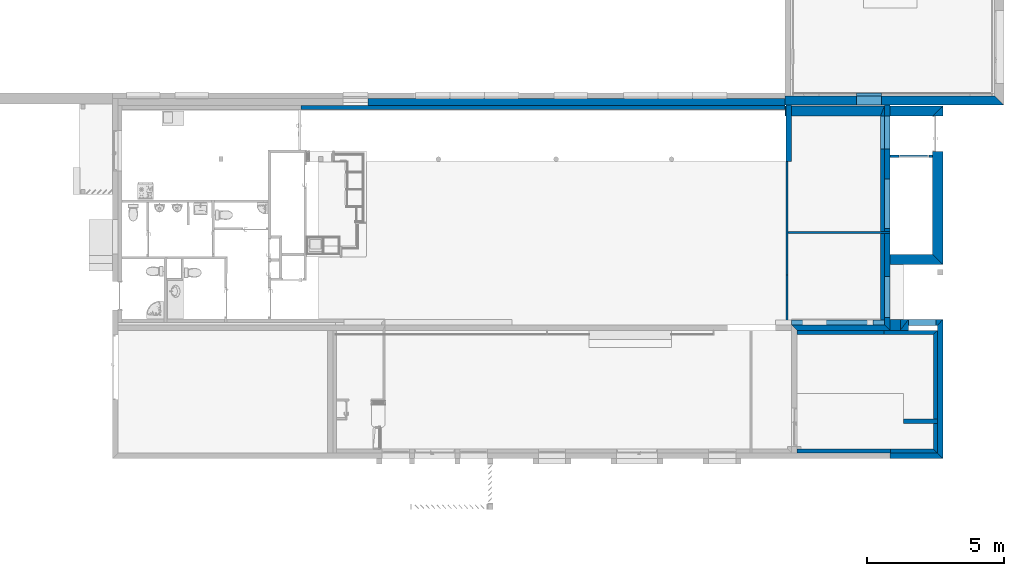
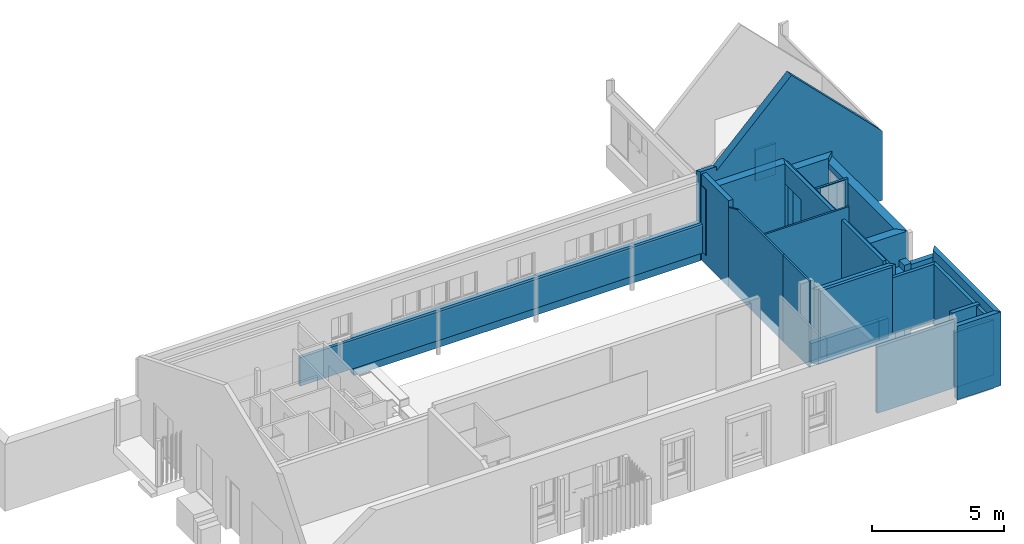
# One storey, part 11 of 34: 30 walls, 8 openings.
"""IFC2X3 building model written with IfcOpenShell, lengths in metres."""

from ifc_helpers import new_model, entity, si_unit, converted_unit, derived_unit, money_unit, direction, frame, origin_with_axes, origin_2d_with_axis, place, context, subcontext, project, spatial, polyline, rectangle, outline, extrude, clip, halfspace, bounded_halfspace, material, layer, layer_set, layer_usage, type_object, element, save


model = new_model("IFC2X3")

# Units and contexts
model_context = context("Model", 3, precision=1e-05, world=origin_with_axes(), true_north=direction((0.0, 1.0)))
body_context = subcontext(model_context, "Body", "Model", "MODEL_VIEW")
ifc_project = project(units=[si_unit("LENGTHUNIT", "METRE"), si_unit("AREAUNIT", "SQUARE_METRE"), si_unit("VOLUMEUNIT", "CUBIC_METRE"), converted_unit("PLANEANGLEUNIT", "DEGREE", entity("IfcPlaneAngleMeasure", 0.0174532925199), si_unit("PLANEANGLEUNIT", "RADIAN"), dimensions=[0, 0, 0, 0, 0, 0, 0]), money_unit("CHF"), converted_unit("TIMEUNIT", "Year", entity("IfcTimeMeasure", 31556926.0), si_unit("TIMEUNIT", "SECOND"), dimensions=[0, 0, 1, 0, 0, 0, 0]), si_unit("MASSUNIT", "GRAM", prefix="KILO"), si_unit("THERMODYNAMICTEMPERATUREUNIT", "DEGREE_CELSIUS"), si_unit("LUMINOUSINTENSITYUNIT", "LUMEN"), si_unit("ENERGYUNIT", "JOULE", prefix="MEGA"), derived_unit("THERMALCONDUCTANCEUNIT", [(si_unit("POWERUNIT", "WATT"), 1), (si_unit("LENGTHUNIT", "METRE"), -1), (si_unit("THERMODYNAMICTEMPERATUREUNIT", "KELVIN"), -1)]), derived_unit("SPECIFICHEATCAPACITYUNIT", [(si_unit("ENERGYUNIT", "JOULE"), 1), (si_unit("MASSUNIT", "GRAM", prefix="KILO"), -1), (si_unit("THERMODYNAMICTEMPERATUREUNIT", "KELVIN"), -1)]), derived_unit("MASSDENSITYUNIT", [(si_unit("MASSUNIT", "GRAM", prefix="KILO"), 1), (si_unit("VOLUMEUNIT", "CUBIC_METRE"), -1)])], contexts=[model_context])

# Site, building, storey
site_placement = place(None, origin_with_axes())
site = spatial("IfcSite", under=ifc_project, at=site_placement, Name="Site", CompositionType="ELEMENT")
building_placement = place(site_placement, origin_with_axes())
building = spatial("IfcBuilding", under=site, at=building_placement, Name="Bâtiment", CompositionType="ELEMENT")
storey_placement = place(building_placement, origin_with_axes())
storey = spatial("IfcBuildingStorey", under=building, at=storey_placement, Name="RDC", CompositionType="ELEMENT", Elevation=-5.32907e-15)

# Wall, openings
ifc_material_1 = material(Name="Diagonales 1167258944")
ifc_layer_1 = layer(ifc_material_1, 0.2, ventilated="UNKNOWN")
ifc_layer_set_1 = layer_set([ifc_layer_1], Name="Diagonales 1167258944 0.2")
ifc_layer_usage_1 = layer_usage(ifc_layer_set_1, "AXIS2", "NEGATIVE", 0.0)
wall_type_1 = type_object("IfcWallType", Name="Diagonales 1167258944 200", PredefinedType="NOTDEFINED")
wall_1_placement = place(storey_placement, frame((1695.75729001, 190.26004191, 0.0), z_axis=(0.0, 0.0, 1.0), x_axis=(0.0, -1.0, 0.0)))
wall_1 = element("IfcWallStandardCase", 1, at=wall_1_placement, inside=storey, type_object=wall_type_1, material=ifc_layer_usage_1, Name="Mur-004", context=body_context, shape_type="Clipping", body=[
    clip(clip(extrude(outline(polyline([(0.0, -0.2), (8.01, -0.2), (8.21, 0.0), (0.0, 0.0), (0.0, -0.2)])), origin_with_axes(), (0.0, 0.0, 1.0), 3.27823220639), bounded_halfspace(frame((-1.37691539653, 0.0, 2.63513090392), z_axis=(0.463111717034, 0.0, -0.886299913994), x_axis=(0.0, 1.0, 0.0)), True, origin_with_axes(), polyline([(0.303252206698, -0.21), (6.22, -0.21), (6.22, 0.01), (0.303252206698, 0.01), (0.303252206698, -0.21)]))), bounded_halfspace(frame((3.52130527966, 0.0, 7.82430005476), z_axis=(-0.410400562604, 0.0, -0.911905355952), x_axis=(0.0, 1.0, 0.0)), True, origin_with_axes(), polyline([(6.22, -0.21), (13.38001, -0.21), (13.38001, 0.01), (6.22, 0.01), (6.22, -0.21)]))),
])
opening_1_placement = place(wall_1_placement, frame((3.59, 0.0, 0.47), z_axis=(0.0, 0.0, 1.0), x_axis=(1.0, 0.0, 0.0)))
element("IfcOpeningElement", 2, at=opening_1_placement, cuts=wall_1, Name="Por-007", context=body_context, shape_type="SweptSolid", body=[
    extrude(rectangle(XDim=1.8, YDim=2.36, at=origin_2d_with_axis()), frame((0.0, 0.0, 1.18), z_axis=(0.0, -1.0, 0.0), x_axis=(1.0, 0.0, 0.0)), (0.0, 0.0, -1.0), 0.2),
    extrude(rectangle(XDim=1.8, YDim=2.36, at=origin_2d_with_axis()), frame((0.0, 0.0, 1.18), z_axis=(0.0, 1.0, 0.0), x_axis=(1.0, 0.0, 0.0)), (0.0, 0.0, -1.0), 0.2),
])
opening_2_placement = place(wall_1_placement, frame((6.99402079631, 0.0, 0.47), z_axis=(0.0, 0.0, 1.0), x_axis=(1.0, 0.0, 0.0)))
element("IfcOpeningElement", 3, at=opening_2_placement, cuts=wall_1, Name="Por-004", context=body_context, shape_type="SweptSolid", body=[
    extrude(rectangle(XDim=1.5, YDim=2.36, at=origin_2d_with_axis()), frame((0.0, -0.2, 1.18), z_axis=(0.0, -1.0, 0.0), x_axis=(-1.0, 0.0, 0.0)), (0.0, 0.0, -1.0), 0.6),
])
opening_3_placement = place(wall_1_placement, frame((0.993, 0.0, 0.47), z_axis=(0.0, 0.0, 1.0), x_axis=(1.0, 0.0, 0.0)))
element("IfcOpeningElement", 4, at=opening_3_placement, cuts=wall_1, Name="Por-006", context=body_context, shape_type="SweptSolid", body=[
    extrude(rectangle(XDim=1.2, YDim=2.1, at=origin_2d_with_axis()), frame((0.0, 0.0, 1.05), z_axis=(0.0, -1.0, 0.0), x_axis=(1.0, 0.0, 0.0)), (0.0, 0.0, -1.0), 0.2),
    extrude(rectangle(XDim=1.2, YDim=2.1, at=origin_2d_with_axis()), frame((0.0, 0.0, 1.05), z_axis=(0.0, 1.0, 0.0), x_axis=(1.0, 0.0, 0.0)), (0.0, 0.0, -1.0), 0.2),
])

# Walls
ifc_layer_usage_2 = layer_usage(ifc_layer_set_1, "AXIS2", "POSITIVE", 0.0)
wall_2_placement = place(storey_placement, frame((1691.97729011, 190.26004191, 0.0), z_axis=(0.0, 0.0, 1.0), x_axis=(-4.77416285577e-08, -1.0, 0.0)))
element("IfcWallStandardCase", 5, at=wall_2_placement, inside=storey, type_object=wall_type_1, material=ifc_layer_usage_2, Name="Mur-002", context=body_context, shape_type="SweptSolid", body=[
    extrude(outline(polyline([(0.0, 0.0), (2.06, 0.0), (2.06, 0.2), (0.0, 0.2), (0.0, 0.0)])), origin_with_axes(), (0.0, 0.0, 1.0), 4.0),
])
ifc_layer_usage_3 = layer_usage(ifc_layer_set_1, "AXIS2", "POSITIVE", 0.0)
wall_3_placement = place(storey_placement, frame((1697.68729001, 177.38004191, 0.0), z_axis=(0.0, 0.0, 1.0), x_axis=(0.0, 1.0, 0.0)))
element("IfcWallStandardCase", 6, at=wall_3_placement, inside=storey, type_object=wall_type_1, material=ifc_layer_usage_3, Name="Mur-007", context=body_context, shape_type="SweptSolid", body=[
    extrude(outline(polyline([(0.0, 0.0), (5.07, 0.0), (4.84, 0.2), (0.2, 0.2), (0.0, 0.0)])), origin_with_axes(), (0.0, 0.0, 1.0), 3.42),
])
ifc_layer_usage_4 = layer_usage(ifc_layer_set_1, "AXIS2", "NEGATIVE", 0.0)
wall_4_placement = place(storey_placement, frame((1695.75729001, 182.05004191, 0.0), z_axis=(0.0, 0.0, 1.0), x_axis=(-1.0, 0.0, 0.0)))
element("IfcWallStandardCase", 7, at=wall_4_placement, inside=storey, type_object=wall_type_1, material=ifc_layer_usage_4, Name="Mur-005", context=body_context, shape_type="SweptSolid", body=[
    extrude(outline(polyline([(0.2, -0.2), (3.59, -0.2), (3.39, 0.0), (0.0, 0.0), (0.2, -0.2)])), origin_with_axes(), (0.0, 0.0, 1.0), 3.47135332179),
])
ifc_layer_usage_5 = layer_usage(ifc_layer_set_1, "AXIS2", "POSITIVE", 0.0)
wall_5_placement = place(storey_placement, frame((1695.75729001, 177.38004191, 0.0), z_axis=(0.0, 0.0, 1.0), x_axis=(1.0, 0.0, 0.0)))
element("IfcWallStandardCase", 8, at=wall_5_placement, inside=storey, type_object=wall_type_1, material=ifc_layer_usage_5, Name="Mur-006", context=body_context, shape_type="Clipping", body=[
    clip(clip(extrude(outline(polyline([(0.0, 0.0), (1.93, 0.0), (1.73, 0.2), (0.0, 0.2), (0.0, 0.0)])), origin_with_axes(), (0.0, 0.0, 1.0), 3.42), halfspace(frame((0.0, -1.35194463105, 3.00400550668), z_axis=(0.0, 0.410400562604, -0.911905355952), x_axis=(0.0, 0.911905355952, 0.410400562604)), True)), bounded_halfspace(frame((0.0, -1.35194463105, 3.00400550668), z_axis=(0.0, 0.410400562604, -0.911905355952), x_axis=(0.0, 0.911905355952, 0.410400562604)), True, origin_with_axes(), polyline([(-28.5900100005, -0.01), (0.249999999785, -0.01), (0.249999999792, 0.21), (-28.5900100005, 0.21), (-28.5900100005, -0.01)]))),
])

# Wall, opening
ifc_layer_2 = layer(ifc_material_1, 0.34, ventilated="UNKNOWN")
ifc_layer_set_2 = layer_set([ifc_layer_2], Name="Diagonales 1167258944 0.34")
ifc_layer_usage_6 = layer_usage(ifc_layer_set_2, "AXIS2", "POSITIVE", 0.0)
wall_type_2 = type_object("IfcWallType", Name="Diagonales 1167258944 340", PredefinedType="NOTDEFINED")
wall_6_placement = place(storey_placement, frame((1691.93729001, 190.26004191, 0.0), z_axis=(0.0, 0.0, 1.0), x_axis=(1.0, 0.0, 0.0)))
wall_6 = element("IfcWallStandardCase", 9, at=wall_6_placement, inside=storey, type_object=wall_type_2, material=ifc_layer_usage_6, Name="Mur-004", context=body_context, shape_type="Clipping", body=[
    clip(clip(clip(extrude(outline(polyline([(0.0, 0.0), (7.98, 0.0), (7.64, 0.34), (0.0, 0.34), (0.0, 0.0)])), origin_with_axes(), (0.0, 0.0, 1.0), 7.30016977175), bounded_halfspace(frame((0.0, 1.41507089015, 3.53767722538), z_axis=(0.0, -0.371390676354, -0.928476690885), x_axis=(0.0, 0.928476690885, -0.371390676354)), True, origin_with_axes(), polyline([(-24.913515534, 0.34), (-24.7658335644, -0.01), (0.840391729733, -0.01), (0.688490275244, 0.35), (-24.913515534, 0.35), (-24.913515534, 0.34)]))), bounded_halfspace(frame((-1.60000001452, 0.0, 1.60000001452), z_axis=(0.707106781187, 0.0, -0.707106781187), x_axis=(0.0, 1.0, 0.0)), True, origin_with_axes(), polyline([(0.692207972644, -0.01), (3.98999993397, -0.01), (3.98999993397, 0.35), (0.692207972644, 0.35), (0.692207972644, -0.01)]))), bounded_halfspace(frame((5.5899999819, 0.0, 5.5899999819), z_axis=(-0.707106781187, 0.0, -0.707106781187), x_axis=(0.0, 1.0, 0.0)), True, origin_with_axes(), polyline([(3.98999999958, -0.01), (8.18000999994, -0.01), (8.18000999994, 0.35), (3.98999999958, 0.35), (3.98999999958, -0.01)]))),
])
opening_4_placement = place(wall_6_placement, frame((3.055, 0.0, 0.47), z_axis=(0.0, 0.0, 1.0), x_axis=(1.0, 0.0, 0.0)))
element("IfcOpeningElement", 10, at=opening_4_placement, cuts=wall_6, Name="Por-004", context=body_context, shape_type="SweptSolid", body=[
    extrude(rectangle(XDim=0.91, YDim=2.08, at=origin_2d_with_axis()), frame((0.0, 0.34, 1.04), z_axis=(0.0, -1.0, 0.0), x_axis=(1.0, 0.0, 0.0)), (0.0, 0.0, -1.0), 0.34),
    extrude(rectangle(XDim=0.91, YDim=2.08, at=origin_2d_with_axis()), frame((0.0, 0.34, 1.04), z_axis=(0.0, 1.0, 0.0), x_axis=(1.0, 0.0, 0.0)), (0.0, 0.0, -1.0), 0.34),
])

# Wall
ifc_layer_3 = layer(ifc_material_1, 0.17, ventilated="UNKNOWN")
ifc_layer_set_3 = layer_set([ifc_layer_3], Name="Diagonales 1167258944 0.17")
ifc_layer_usage_7 = layer_usage(ifc_layer_set_3, "AXIS2", "NEGATIVE", 0.0)
wall_type_3 = type_object("IfcWallType", Name="Diagonales 1167258944 170", PredefinedType="NOTDEFINED")
wall_7_placement = place(storey_placement, frame((1697.48729001, 178.65004191, 0.0), z_axis=(0.0, 0.0, 1.0), x_axis=(-1.0, 0.0, 0.0)))
element("IfcWallStandardCase", 11, at=wall_7_placement, inside=storey, type_object=wall_type_3, material=ifc_layer_usage_7, Name="Mur-005", context=body_context, shape_type="SweptSolid", body=[
    extrude(outline(polyline([(0.0, -0.17), (1.22999998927, -0.17), (1.22999998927, 0.0), (0.0, 0.0), (0.0, -0.17)])), origin_with_axes(), (0.0, 0.0, 1.0), 3.07823220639),
])

# Wall, opening
ifc_layer_4 = layer(ifc_material_1, 0.23, ventilated="UNKNOWN")
ifc_layer_set_4 = layer_set([ifc_layer_4], Name="Diagonales 1167258944 0.23")
ifc_layer_usage_8 = layer_usage(ifc_layer_set_4, "AXIS2", "NEGATIVE", 0.0)
wall_type_4 = type_object("IfcWallType", Name="Diagonales 1167258944 230", PredefinedType="NOTDEFINED")
wall_8_placement = place(storey_placement, frame((1696.43729001, 182.45004191, 0.0), z_axis=(0.0, 0.0, 1.0), x_axis=(1.0, 0.0, 0.0)))
wall_8 = element("IfcWallStandardCase", 12, at=wall_8_placement, inside=storey, type_object=wall_type_4, material=ifc_layer_usage_8, Name="Mur-010", context=body_context, shape_type="SweptSolid", body=[
    extrude(outline(polyline([(0.0, -0.23), (1.05, -0.23), (1.25, 0.0), (0.0, 0.0), (0.0, -0.23)])), origin_with_axes(), (0.0, 0.0, 1.0), 3.07823220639),
])
opening_5_placement = place(wall_8_placement, frame((0.498139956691, 0.0, 0.47), z_axis=(0.0, 0.0, 1.0), x_axis=(1.0, 0.0, 0.0)))
element("IfcOpeningElement", 13, at=opening_5_placement, cuts=wall_8, Name="Por-004", context=body_context, shape_type="SweptSolid", body=[
    extrude(rectangle(XDim=0.996279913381, YDim=2.072, at=origin_2d_with_axis()), frame((0.0, -0.23, 1.036), z_axis=(0.0, 1.0, 0.0), x_axis=(1.0, 0.0, 0.0)), (0.0, 0.0, -1.0), 0.23),
    extrude(rectangle(XDim=0.996279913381, YDim=2.072, at=origin_2d_with_axis()), frame((0.0, -0.23, 1.036), z_axis=(0.0, -1.0, 0.0), x_axis=(1.0, 0.0, 0.0)), (0.0, 0.0, -1.0), 0.23),
])

# Walls
ifc_layer_5 = layer(ifc_material_1, 0.4, ventilated="UNKNOWN")
ifc_layer_set_5 = layer_set([ifc_layer_5], Name="Diagonales 1167258944 0.4")
ifc_layer_usage_9 = layer_usage(ifc_layer_set_5, "AXIS2", "NEGATIVE", 0.0)
wall_type_5 = type_object("IfcWallType", Name="Diagonales 1167258944 400", PredefinedType="NOTDEFINED")
wall_9_placement = place(storey_placement, frame((1695.75729001, 182.45004191, 0.0), z_axis=(0.0, 0.0, 1.0), x_axis=(1.0, 0.0, 0.0)))
element("IfcWallStandardCase", 14, at=wall_9_placement, inside=storey, type_object=wall_type_5, material=ifc_layer_usage_9, Name="Mur-010", context=body_context, shape_type="SweptSolid", body=[
    extrude(outline(polyline([(0.0, -0.4), (0.38, -0.4), (0.68, 0.0), (0.0, 0.0), (0.0, -0.4)])), origin_with_axes(), (0.0, 0.0, 1.0), 2.98803488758),
])
ifc_layer_6 = layer(ifc_material_1, 0.3, ventilated="UNKNOWN")
ifc_layer_set_6 = layer_set([ifc_layer_6], Name="Diagonales 1167258944 0.3")
ifc_layer_usage_10 = layer_usage(ifc_layer_set_6, "AXIS2", "POSITIVE", 0.0)
wall_type_6 = type_object("IfcWallType", Name="Diagonales 1167258944 300", PredefinedType="NOTDEFINED")
wall_10_placement = place(storey_placement, frame((1696.13729001, 182.45004191, 0.0), z_axis=(0.0, 0.0, 1.0), x_axis=(0.0, -1.0, 0.0)))
element("IfcWallStandardCase", 15, at=wall_10_placement, inside=storey, type_object=wall_type_6, material=ifc_layer_usage_10, Name="Mur-008", context=body_context, shape_type="SweptSolid", body=[
    extrude(outline(polyline([(0.0, 0.3), (0.4, 0.0), (0.4, 0.3), (0.0, 0.3)])), origin_with_axes(), (0.0, 0.0, 1.0), 2.98803488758),
])
ifc_layer_usage_11 = layer_usage(ifc_layer_set_6, "AXIS2", "POSITIVE", 0.0)
wall_11_placement = place(storey_placement, frame((1696.13729001, 182.45004191, 0.0), z_axis=(0.0, 0.0, 1.0), x_axis=(0.0, -1.0, 0.0)))
element("IfcWallStandardCase", 16, at=wall_11_placement, inside=storey, type_object=wall_type_6, material=ifc_layer_usage_11, Name="Mur-008", context=body_context, shape_type="SweptSolid", body=[
    extrude(outline(polyline([(0.0, 0.0), (0.4, 0.0), (0.4, 0.3), (0.0, 0.3), (0.0, 0.0)])), origin_with_axes(), (0.0, 0.0, 1.0), 3.27823220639),
])
ifc_layer_7 = layer(ifc_material_1, 0.18, ventilated="UNKNOWN")
ifc_layer_set_7 = layer_set([ifc_layer_7], Name="Diagonales 1167258944 0.18")
ifc_layer_usage_12 = layer_usage(ifc_layer_set_7, "AXIS2", "POSITIVE", 0.0)
wall_type_7 = type_object("IfcWallType", Name="Diagonales 1167258944 180", PredefinedType="NOTDEFINED")
wall_12_placement = place(storey_placement, frame((1692.16729001, 182.25004191, 0.0), z_axis=(0.0, 0.0, 1.0), x_axis=(1.0, 0.0, 0.0)))
element("IfcWallStandardCase", 17, at=wall_12_placement, inside=storey, type_object=wall_type_7, material=ifc_layer_usage_12, Name="Mur-002", context=body_context, shape_type="SweptSolid", body=[
    extrude(outline(polyline([(0.0, 0.0), (3.39, 0.0), (3.39, 0.18), (0.0, 0.18), (0.0, 0.0)])), origin_with_axes(), (0.0, 0.0, 1.0), 0.92),
])
ifc_layer_usage_13 = layer_usage(ifc_layer_set_7, "AXIS2", "POSITIVE", 0.0)
wall_13_placement = place(storey_placement, frame((1692.86688861, 182.25004191, 0.0), z_axis=(0.0, 0.0, 1.0), x_axis=(1.0, 0.0, 0.0)))
element("IfcWallStandardCase", 18, at=wall_13_placement, inside=storey, type_object=wall_type_7, material=ifc_layer_usage_13, Name="Mur-002", context=body_context, shape_type="SweptSolid", body=[
    extrude(outline(polyline([(0.0, 0.0), (2.26680297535, 0.0), (2.26680297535, 0.18), (0.0, 0.18), (0.0, 0.0)])), origin_with_axes(), (0.0, 0.0, 1.0), 0.92),
])
ifc_material_2 = material(Name="Isolation laine de pierre 378182646")
ifc_layer_8 = layer(ifc_material_2, 0.12, ventilated="UNKNOWN")
ifc_material_3 = material(Name="Plâtre lissé 291446788")
ifc_layer_9 = layer(ifc_material_3, 0.02, ventilated="UNKNOWN")
ifc_layer_set_8 = layer_set([ifc_layer_8, ifc_layer_9], Name="DOUBLAGE ISO + BA13 14 CM")
ifc_layer_usage_14 = layer_usage(ifc_layer_set_8, "AXIS2", "POSITIVE", 0.0)
wall_type_8 = type_object("IfcWallType", Name="DOUBLAGE ISO + BA13 14 CM 140", PredefinedType="NOTDEFINED")
wall_14_placement = place(storey_placement, frame((1697.48729001, 177.58004191, 0.0), z_axis=(0.0, 0.0, 1.0), x_axis=(0.0, 1.0, 0.0)))
element("IfcWallStandardCase", 19, at=wall_14_placement, inside=storey, type_object=wall_type_8, material=ifc_layer_usage_14, Name="Mur-006", context=body_context, shape_type="SweptSolid", body=[
    extrude(outline(polyline([(0.0, 0.0), (4.46, 0.0), (4.32, 0.14), (0.14, 0.14), (0.0, 0.0)])), origin_with_axes(), (0.0, 0.0, 1.0), 3.0),
])

# Wall, opening
ifc_layer_usage_15 = layer_usage(ifc_layer_set_8, "AXIS2", "NEGATIVE", 0.0)
wall_15_placement = place(storey_placement, frame((1695.55729001, 190.22004191, 0.439999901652), z_axis=(0.0, 0.0, 1.0), x_axis=(0.0, -1.0, 0.0)))
wall_15 = element("IfcWallStandardCase", 20, at=wall_15_placement, inside=storey, type_object=wall_type_8, material=ifc_layer_usage_15, Name="Mur-003", context=body_context, shape_type="SweptSolid", body=[
    extrude(outline(polyline([(0.353, -0.14), (7.79, -0.14), (7.79, 0.0), (0.0, 0.0), (0.353, -0.14)])), origin_with_axes(), (0.0, 0.0, 1.0), 3.06000009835),
])
opening_6_placement = place(wall_15_placement, frame((0.953, 0.0, 0.0300000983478), z_axis=(0.0, 0.0, 1.0), x_axis=(1.0, 0.0, 0.0)))
element("IfcOpeningElement", 21, at=opening_6_placement, cuts=wall_15, Name="Por-006", context=body_context, shape_type="SweptSolid", body=[
    extrude(rectangle(XDim=1.2, YDim=2.1, at=origin_2d_with_axis()), frame((0.0, 0.0, 1.05), z_axis=(0.0, -1.0, 0.0), x_axis=(1.0, 0.0, 0.0)), (0.0, 0.0, -1.0), 0.14),
    extrude(rectangle(XDim=1.2, YDim=2.1, at=origin_2d_with_axis()), frame((0.0, 0.0, 1.05), z_axis=(0.0, 1.0, 0.0), x_axis=(1.0, 0.0, 0.0)), (0.0, 0.0, -1.0), 0.14),
])

# Walls
ifc_layer_usage_16 = layer_usage(ifc_layer_set_8, "AXIS2", "POSITIVE", 0.0)
wall_16_placement = place(storey_placement, frame((1692.16729001, 177.58004191, 0.44), z_axis=(0.0, 0.0, 1.0), x_axis=(1.0, 0.0, 0.0)))
element("IfcWallStandardCase", 22, at=wall_16_placement, inside=storey, type_object=wall_type_8, material=ifc_layer_usage_16, Name="Mur-005", context=body_context, shape_type="SweptSolid", body=[
    extrude(outline(polyline([(0.2, 0.0), (3.60958690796, 0.0), (3.60958690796, 0.14), (0.2, 0.14), (0.2, 0.0)])), origin_with_axes(), (0.0, 0.0, 1.0), 3.07823220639),
])
ifc_layer_usage_17 = layer_usage(ifc_layer_set_8, "AXIS2", "POSITIVE", 0.0)
wall_17_placement = place(storey_placement, frame((1697.48729001, 182.04004191, 0.44), z_axis=(0.0, 0.0, 1.0), x_axis=(-1.0, 0.0, 0.0)))
element("IfcWallStandardCase", 23, at=wall_17_placement, inside=storey, type_object=wall_type_8, material=ifc_layer_usage_17, Name="Mur-006", context=body_context, shape_type="SweptSolid", body=[
    extrude(outline(polyline([(0.0, 0.0), (1.94612759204, 0.0), (1.94612759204, 0.14), (0.14, 0.14), (0.0, 0.0)])), origin_with_axes(), (0.0, 0.0, 1.0), 2.56),
])
ifc_layer_usage_18 = layer_usage(ifc_layer_set_8, "AXIS2", "POSITIVE", 0.0)
wall_18_placement = place(storey_placement, frame((1691.93729001, 190.24004191, 0.44), z_axis=(0.0, 0.0, 1.0), x_axis=(-1.0, 0.0, 0.0)))
element("IfcWallStandardCase", 24, at=wall_18_placement, inside=storey, type_object=wall_type_8, material=ifc_layer_usage_18, Name="Mur-003", context=body_context, shape_type="SweptSolid", body=[
    extrude(outline(polyline([(0.0, 0.0), (17.6463941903, 0.0), (17.6463941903, 0.14), (0.0, 0.14), (0.0, 0.0)])), origin_with_axes(), (0.0, 0.0, 1.0), 1.32817564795),
])
ifc_layer_usage_19 = layer_usage(ifc_layer_set_8, "AXIS2", "POSITIVE", 0.0)
wall_19_placement = place(storey_placement, frame((1695.54116242, 182.04004191, 0.44), z_axis=(0.0, 0.0, 1.0), x_axis=(-1.0, 0.0, 0.0)))
element("IfcWallStandardCase", 25, at=wall_19_placement, inside=storey, type_object=wall_type_8, material=ifc_layer_usage_19, Name="Mur-006", context=body_context, shape_type="SweptSolid", body=[
    extrude(outline(polyline([(0.0, 0.0), (3.17387240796, 0.0), (3.17387240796, 0.14), (0.0, 0.14), (0.0, 0.0)])), origin_with_axes(), (0.0, 0.0, 1.0), 3.06000008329),
])
ifc_layer_usage_20 = layer_usage(ifc_layer_set_8, "AXIS2", "POSITIVE", 0.0)
wall_20_placement = place(storey_placement, frame((1695.77687692, 177.58004191, 0.44), z_axis=(0.0, 0.0, 1.0), x_axis=(1.0, 0.0, 0.0)))
element("IfcWallStandardCase", 26, at=wall_20_placement, inside=storey, type_object=wall_type_8, material=ifc_layer_usage_20, Name="Mur-005", context=body_context, shape_type="SweptSolid", body=[
    extrude(outline(polyline([(0.0, 0.0), (1.71041309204, 0.0), (1.57041309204, 0.14), (0.0, 0.14), (0.0, 0.0)])), origin_with_axes(), (0.0, 0.0, 1.0), 2.56),
])
ifc_layer_10 = layer(ifc_material_3, 0.018, ventilated="UNKNOWN")
ifc_material_4 = material(Name="Isolation laine de pierre 378641718")
ifc_layer_11 = layer(ifc_material_4, 0.045, ventilated="UNKNOWN")
ifc_layer_12 = layer(ifc_material_3, 0.018, ventilated="UNKNOWN")
ifc_layer_set_9 = layer_set([ifc_layer_10, ifc_layer_11, ifc_layer_12], Name="CLOISON 84/45 iso")
ifc_layer_usage_21 = layer_usage(ifc_layer_set_9, "AXIS2", "POSITIVE", 0.0)
wall_type_9 = type_object("IfcWallType", Name="CLOISON 84/45 iso 81", PredefinedType="NOTDEFINED")
wall_21_placement = place(storey_placement, frame((1692.04729002, 184.060041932, 0.0), z_axis=(0.0, 0.0, 1.0), x_axis=(5.46000263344e-09, 1.0, 0.0)))
element("IfcWallStandardCase", 27, at=wall_21_placement, inside=storey, type_object=wall_type_9, material=ifc_layer_usage_21, Name="Mur-005", context=body_context, shape_type="Clipping", body=[
    clip(extrude(outline(polyline([(0.0, 0.0), (4.13999997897, 0.0), (4.13999997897, 0.081), (0.0, 0.081), (0.0, 0.0)])), origin_with_axes(), (0.0, 0.0, 1.0), 4.0), bounded_halfspace(frame((2.08123747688, 1.13635563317e-08, 4.62448586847), z_axis=(-0.410400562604, -2.24078701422e-09, -0.911905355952), x_axis=(0.0, 1.0, -2.45725831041e-09)), True, origin_with_axes(), polyline([(-1.1750091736, -0.01), (4.52000997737, -0.01), (4.52000997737, 0.091), (-1.1750091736, 0.091), (-1.1750091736, -0.01)]))),
])
ifc_layer_usage_22 = layer_usage(ifc_layer_set_9, "AXIS2", "POSITIVE", 0.0)
wall_22_placement = place(storey_placement, frame((1692.04729001, 182.05004191, 0.0), z_axis=(0.0, 0.0, 1.0), x_axis=(5.45999414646e-09, 1.0, 0.0)))
element("IfcWallStandardCase", 28, at=wall_22_placement, inside=storey, type_object=wall_type_9, material=ifc_layer_usage_22, Name="Mur-005", context=body_context, shape_type="Clipping", body=[
    clip(extrude(outline(polyline([(0.0, 0.0), (2.01000002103, 0.0), (2.01000002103, 0.081), (0.0, 0.081), (0.0, 0.0)])), origin_with_axes(), (0.0, 0.0, 1.0), 4.0), bounded_halfspace(frame((2.41977901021, 1.32119930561e-08, 5.3767212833), z_axis=(-0.410400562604, -2.24078701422e-09, -0.911905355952), x_axis=(0.0, 1.0, -2.45725831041e-09)), True, origin_with_axes(), polyline([(0.834990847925, -0.01), (6.5300099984, -0.01), (6.5300099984, 0.091), (0.834990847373, 0.091), (0.834990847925, -0.01)]))),
])
ifc_layer_usage_23 = layer_usage(ifc_layer_set_9, "AXIS2", "POSITIVE", 0.0)
wall_23_placement = place(storey_placement, frame((1692.04729001, 185.58004191, 0.0), z_axis=(0.0, 0.0, 1.0), x_axis=(1.0, 0.0, 0.0)))
element("IfcWallStandardCase", 29, at=wall_23_placement, inside=storey, type_object=wall_type_9, material=ifc_layer_usage_23, Name="Mur-006", context=body_context, shape_type="SweptSolid", body=[
    extrude(outline(polyline([(0.0, 0.0), (3.71, 0.0), (3.71, 0.081), (0.0, 0.081), (0.0, 0.0)])), origin_with_axes(), (0.0, 0.0, 1.0), 4.0),
])

# Wall, opening
ifc_layer_13 = layer(ifc_material_3, 0.015, ventilated="UNKNOWN")
ifc_material_5 = material(Name="Isolation laine de pierre 307970822")
ifc_layer_14 = layer(ifc_material_5, 0.07, ventilated="UNKNOWN")
ifc_layer_15 = layer(ifc_material_3, 0.015, ventilated="UNKNOWN")
ifc_layer_set_10 = layer_set([ifc_layer_13, ifc_layer_14, ifc_layer_15], Name="CLOISON 10 ROUGE")
ifc_layer_usage_24 = layer_usage(ifc_layer_set_10, "AXIS2", "POSITIVE", 0.0)
wall_type_10 = type_object("IfcWallType", Name="CLOISON 10 ROUGE 100", PredefinedType="NOTDEFINED")
wall_24_placement = place(storey_placement, frame((1697.68729001, 188.45004191, 0.47), z_axis=(0.0, 0.0, 1.0), x_axis=(-1.0, 0.0, 0.0)))
wall_24 = element("IfcWallStandardCase", 30, at=wall_24_placement, inside=storey, type_object=wall_type_10, material=ifc_layer_usage_24, Name="Mur-010", context=body_context, shape_type="SweptSolid", body=[
    extrude(outline(polyline([(0.373, 0.0), (1.93003316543, 0.0), (1.93003316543, 0.1), (0.373, 0.1), (0.373, 0.0)])), origin_with_axes(), (0.0, 0.0, 1.0), 2.60823220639),
])
opening_7_placement = place(wall_24_placement, frame((1.05332096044, 0.0, 0.47), z_axis=(0.0, 0.0, 1.0), x_axis=(1.0, 0.0, 0.0)))
element("IfcOpeningElement", 31, at=opening_7_placement, cuts=wall_24, Name="Por-004", context=body_context, shape_type="SweptSolid", body=[
    extrude(rectangle(XDim=1.086, YDim=2.1, at=origin_2d_with_axis()), frame((0.0, 0.1, 1.05), z_axis=(0.0, 1.0, 0.0), x_axis=(-1.0, 0.0, 0.0)), (0.0, 0.0, -1.0), 0.3),
])

# Walls
ifc_layer_16 = layer(ifc_material_2, 0.08, ventilated="UNKNOWN")
ifc_layer_17 = layer(ifc_material_3, 0.02, ventilated="UNKNOWN")
ifc_layer_set_11 = layer_set([ifc_layer_16, ifc_layer_17], Name="DOUBLAGE ISO + BA13 10 CM  ROUGE")
ifc_layer_usage_25 = layer_usage(ifc_layer_set_11, "AXIS2", "POSITIVE", 0.0)
wall_type_11 = type_object("IfcWallType", Name="DOUBLAGE ISO + BA13 10 CM  ROUGE 100", PredefinedType="NOTDEFINED")
wall_25_placement = place(storey_placement, frame((1694.53729001, 190.60004191, 2.55), z_axis=(0.0, 0.0, 1.0), x_axis=(1.0, 0.0, 0.0)))
element("IfcWallStandardCase", 32, at=wall_25_placement, inside=storey, type_object=wall_type_11, material=ifc_layer_usage_25, Name="Mur-006", context=body_context, shape_type="Clipping", body=[
    clip(extrude(outline(polyline([(0.0, 0.0), (0.91, 0.0), (0.91, 0.1), (0.0, 0.1), (0.0, 0.0)])), origin_with_axes(), (0.0, 0.0, 1.0), 1.45), halfspace(frame((0.0, 1.17458244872, 2.6099087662), z_axis=(0.0, -0.410400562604, -0.911905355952), x_axis=(0.0, 0.911905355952, -0.410400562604)), True)),
])
ifc_material_6 = material(Name="50 % 1167783752")
ifc_layer_18 = layer(ifc_material_6, 0.2, ventilated="UNKNOWN")
ifc_layer_19 = layer(ifc_material_2, 0.14, ventilated="UNKNOWN")
ifc_layer_20 = layer(ifc_material_3, 0.013, ventilated="UNKNOWN")
ifc_layer_set_12 = layer_set([ifc_layer_18, ifc_layer_19, ifc_layer_20], Name="Mur: béton + isolant")
ifc_layer_usage_26 = layer_usage(ifc_layer_set_12, "AXIS2", "POSITIVE", 0.0)
wall_type_12 = type_object("IfcWallType", Name="Mur: béton + isolant  353", PredefinedType="NOTDEFINED")
wall_26_placement = place(storey_placement, frame((1695.55729001, 190.22004191, 0.47), z_axis=(0.0, 0.0, 1.0), x_axis=(-1.0, 0.0, 0.0)))
element("IfcWallStandardCase", 33, at=wall_26_placement, inside=storey, type_object=wall_type_12, material=ifc_layer_usage_26, Name="Mur-004", context=body_context, shape_type="SweptSolid", body=[
    extrude(outline(polyline([(0.0, 0.0), (3.62, 0.0), (3.62, 0.353), (0.14, 0.353), (0.0, 0.0)])), origin_with_axes(), (0.0, 0.0, 1.0), 3.03000008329),
])
ifc_layer_usage_27 = layer_usage(ifc_layer_set_12, "AXIS2", "POSITIVE", 0.0)
wall_27_placement = place(storey_placement, frame((1697.68729001, 190.22004191, -0.191767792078), z_axis=(0.0, 0.0, 1.0), x_axis=(-1.0, 0.0, 0.0)))
element("IfcWallStandardCase", 34, at=wall_27_placement, inside=storey, type_object=wall_type_12, material=ifc_layer_usage_27, Name="Mur-004", context=body_context, shape_type="SweptSolid", body=[
    extrude(outline(polyline([(0.0, 0.0), (1.93, 0.0), (1.93, 0.353), (0.373, 0.353), (0.0, 0.0)])), origin_with_axes(), (0.0, 0.0, 1.0), 3.27823220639),
])
ifc_layer_21 = layer(ifc_material_1, 0.26, ventilated="UNKNOWN")
ifc_layer_set_13 = layer_set([ifc_layer_21], Name="Diagonales 1167258944 0.26")
ifc_layer_usage_28 = layer_usage(ifc_layer_set_13, "AXIS2", "NEGATIVE", 0.0)
wall_type_13 = type_object("IfcWallType", Name="Diagonales 1167258944 260", PredefinedType="NOTDEFINED")
wall_28_placement = place(storey_placement, frame((1676.71998471, 190.50004191, 0.0), z_axis=(0.0, 0.0, 1.0), x_axis=(1.0, 0.0, 0.0)))
element("IfcWallStandardCase", 35, at=wall_28_placement, inside=storey, type_object=wall_type_13, material=ifc_layer_usage_28, Name="Mur-002", context=body_context, shape_type="SweptSolid", body=[
    extrude(outline(polyline([(0.0, -0.26), (15.2173052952, -0.26), (15.2173052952, 0.0), (0.0, 0.0), (0.0, -0.26)])), origin_with_axes(), (0.0, 0.0, 1.0), 1.71817564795),
])
ifc_material_7 = material(Name="Sans Trame 1167258944")
ifc_layer_22 = layer(ifc_material_7, 0.02, ventilated="UNKNOWN")
ifc_layer_23 = layer(ifc_material_6, 0.2, ventilated="UNKNOWN")
ifc_layer_24 = layer(ifc_material_2, 0.14, ventilated="UNKNOWN")
ifc_layer_25 = layer(ifc_material_3, 0.013, ventilated="UNKNOWN")
ifc_layer_set_14 = layer_set([ifc_layer_22, ifc_layer_23, ifc_layer_24, ifc_layer_25], Name="Mur: béton + isolant + revêt int")
ifc_layer_usage_29 = layer_usage(ifc_layer_set_14, "AXIS2", "NEGATIVE", 0.0)
wall_type_14 = type_object("IfcWallType", Name="Mur: béton + isolant + revêt int 373", PredefinedType="NOTDEFINED")
wall_29_placement = place(storey_placement, frame((1697.68729001, 184.45004191, 0.0), z_axis=(0.0, 0.0, 1.0), x_axis=(-1.0, 0.0, 0.0)))
element("IfcWallStandardCase", 36, at=wall_29_placement, inside=storey, type_object=wall_type_14, material=ifc_layer_usage_29, Name="Mur-004", context=body_context, shape_type="SweptSolid", body=[
    extrude(outline(polyline([(0.373, -0.373), (1.93, -0.373), (1.93, 0.0), (0.0, 0.0), (0.373, -0.373)])), origin_with_axes(), (0.0, 0.0, 1.0), 2.88390352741),
])

# Wall, opening
ifc_layer_usage_30 = layer_usage(ifc_layer_set_14, "AXIS2", "NEGATIVE", 0.0)
wall_30_placement = place(storey_placement, frame((1697.68729001, 190.22004191, 0.47), z_axis=(0.0, 0.0, 1.0), x_axis=(0.0, -1.0, 0.0)))
wall_30 = element("IfcWallStandardCase", 37, at=wall_30_placement, inside=storey, type_object=wall_type_14, material=ifc_layer_usage_30, Name="Mur-004", context=body_context, shape_type="SweptSolid", body=[
    extrude(outline(polyline([(0.353, -0.373), (5.397, -0.373), (5.77, 0.0), (0.0, 0.0), (0.353, -0.373)])), origin_with_axes(), (0.0, 0.0, 1.0), 2.3932322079),
])
opening_8_placement = place(wall_30_placement, frame((1.003, 0.0, 0.0), z_axis=(0.0, 0.0, 1.0), x_axis=(1.0, 0.0, 0.0)))
element("IfcOpeningElement", 38, at=opening_8_placement, cuts=wall_30, Name="Por-006", context=body_context, shape_type="SweptSolid", body=[
    extrude(rectangle(XDim=1.3, YDim=2.15, at=origin_2d_with_axis()), frame((0.0, 0.373, 1.075), z_axis=(0.0, 1.0, 0.0), x_axis=(-1.0, 0.0, 0.0)), (0.0, 0.0, -1.0), 1.119),
])

save(model, "model.ifc")
